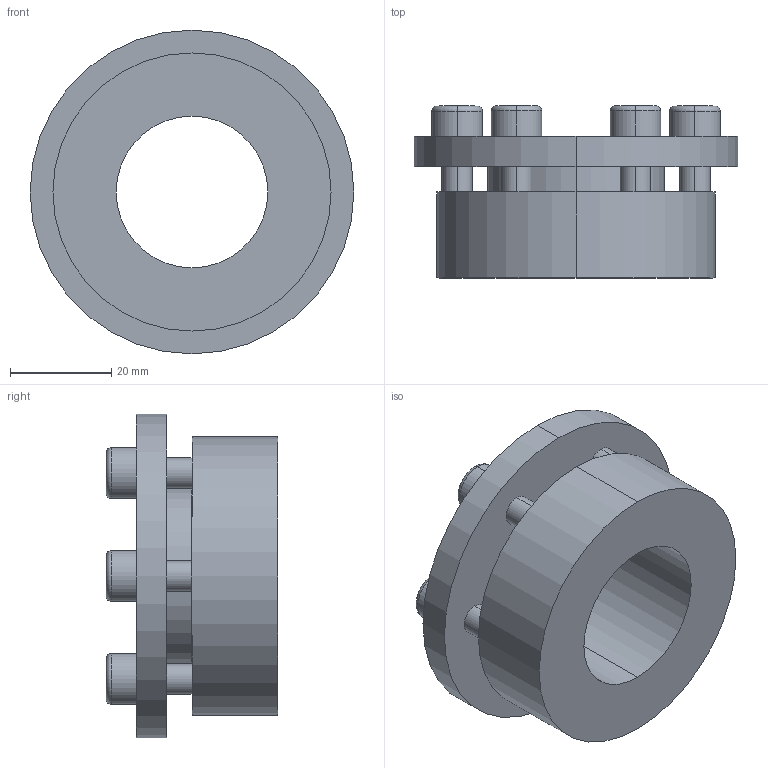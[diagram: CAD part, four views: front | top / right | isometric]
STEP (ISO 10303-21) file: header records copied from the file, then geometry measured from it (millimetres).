
FILE_DESCRIPTION (( 'STEP AP214' ), '1' );
FILE_NAME ('PL-H6 30-55.STEP', '2021-10-23T01:35:47', ( '' ), ( '' ), 'SwSTEP 2.0', 'SolidWorks 2018', '' );
FILE_SCHEMA (( 'AUTOMOTIVE_DESIGN' ));
Length unit declared in the file: millimetre
Products named in the file (1): PL-H6 30-55
Bounding box: 64 x 34 x 64 mm (x, y, z)
Volume: 47956.9 mm3; surface area: 16765.5 mm2
Topology: 1 solids, 1 shells, 96 faces, 228 edges, 148 vertices
Faces by surface type: plane 52, cylinder 32, torus 12
Entity records: 2846 total; most frequent: DIRECTION 510, CARTESIAN_POINT 473, ORIENTED_EDGE 456, EDGE_CURVE 228, AXIS2_PLACEMENT_3D 185, VERTEX_POINT 148, LINE 140, VECTOR 140
